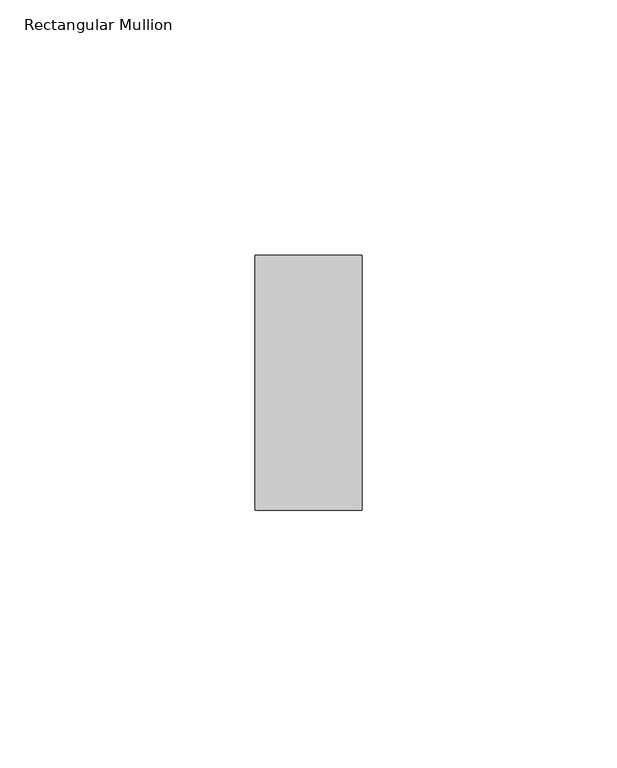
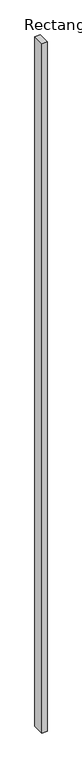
"""IFC4 building model written with IfcOpenShell, lengths in millimetres: member geometry, Rectangular Mullion : RSen_21_CWM_support profile - 21x50 Multi - left_gen_duco projects."""

from ifc_helpers import new_model, si_unit, frame, origin, place, context, project, spatial, polyline, outline, extrude, source, transform, mapped, element, save


def rectangular_mullion_81aaf6fe(model_context):
    return source(origin(), model_context, "Body", "SweptSolid", [
        extrude(outline(polyline([(-50.0, 1.0), (-50.0, -49.0), (-71.0, -49.0), (-71.0, 1.0), (-50.0, 1.0)])), frame((0.0, 0.0, -3000.0), z_axis=(0.0, 0.0, 1.0), x_axis=(1.0, 0.0, 0.0)), (0.0, 0.0, 1.0), 3000.0),
    ])


if __name__ == "__main__":
    model = new_model("IFC4")
    model_context = context("Model", 3, world=origin())
    ifc_project = project(units=[si_unit("LENGTHUNIT", "METRE", prefix="MILLI")], contexts=[model_context])
    site = spatial("IfcSite", under=ifc_project)
    building = spatial("IfcBuilding", under=site)
    placement = place(None, origin())
    rectangular_mullion_shape = rectangular_mullion_81aaf6fe(model_context)
    element("IfcMember", 1, ObjectType="Rectangular Mullion : RSen_21_CWM_support profile - 21x50 Multi - left_gen_duco projects", at=placement, inside=building, context=model_context, shape_type="MappedRepresentation", body=[
        mapped(rectangular_mullion_shape, transform((0.0, 0.0, 0.0), x_axis=(1.0, 0.0, 0.0), y_axis=(0.0, 1.0, 0.0), z_axis=(0.0, 0.0, 1.0))),
    ])
    save(model, "model.ifc")
